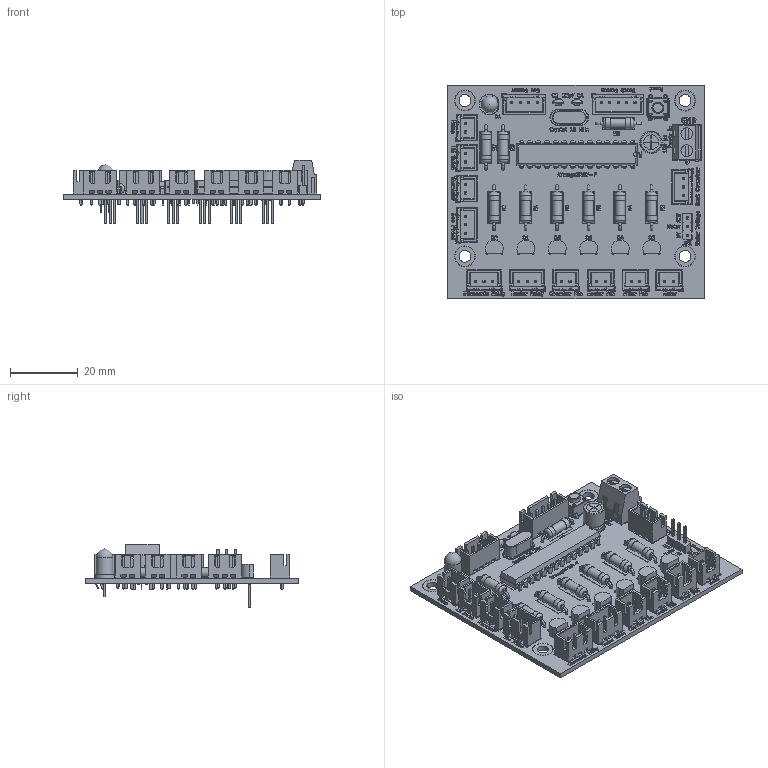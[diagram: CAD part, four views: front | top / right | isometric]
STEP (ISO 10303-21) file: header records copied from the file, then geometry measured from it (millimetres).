
FILE_DESCRIPTION(('KiCad electronic assembly'),'2;1');
FILE_NAME('pcb_opensmooth.step','2026-01-30T16:02:26',('Pcbnew'),( 'Kicad'),'Open CASCADE STEP processor 7.9','KiCad to STEP converter' ,'Unknown');
FILE_SCHEMA(('AUTOMOTIVE_DESIGN { 1 0 10303 214 1 1 1 1 }'));
Length unit declared in the file: millimetre
Products named in the file (18): pcb_opensmooth 1; JST_XH_B3B-XH-A_1x03_P2.50mm_Vertical; JST_XH_B2B-XH-A_1x02_P2.50mm_Vertical; 2n2222; JST_XH_B4B-XH-A_1x04_P2.50mm_Vertical; C_Disc_D3.0mm_W1.6mm_P2.50mm; Crystal_HC49-4H_Vertical; R_Axial_DIN0309_L9.0mm_D3.2mm_P12.70mm_Horizontal; DIP-28_W7.62mm; Tactal Switch -THru (6mmx 6mmx5mm)-Black; LED_D5.0mm; PinHeader_1x03_P2.54mm_Vertical; C_Radial_D6.3mm_H7.0mm_P2.50mm; JST_XH_B5B-XH-A_1x05_P2.50mm_Vertical; c-282836-2-j-3d; pcb_opensmooth_silkscreen; pcb_opensmooth_PCB
Assembly tree (40 placements, depth 2):
  pcb_opensmooth 1
    JST_XH_B3B-XH-A_1x03_P2.50mm_Vertical  x4
    JST_XH_B2B-XH-A_1x02_P2.50mm_Vertical  x7
    2n2222  x6
    JST_XH_B4B-XH-A_1x04_P2.50mm_Vertical
    C_Disc_D3.0mm_W1.6mm_P2.50mm  x2
    Crystal_HC49-4H_Vertical
    R_Axial_DIN0309_L9.0mm_D3.2mm_P12.70mm_Horizontal  x9
    DIP-28_W7.62mm
    Tactal Switch -THru (6mmx 6mmx5mm)-Black
    LED_D5.0mm
    PinHeader_1x03_P2.54mm_Vertical
    C_Radial_D6.3mm_H7.0mm_P2.50mm
    JST_XH_B5B-XH-A_1x05_P2.50mm_Vertical
    c-282836-2-j-3d
    pcb_opensmooth_silkscreen
    pcb_opensmooth_silkscreen
    pcb_opensmooth_PCB
Bounding box: 75.6 x 63.05 x 18.8 mm (x, y, z)
Volume: 12653 mm3; surface area: 21614.5 mm2
Topology: 38 solids, 403 shells, 3821 faces, 15519 edges, 12344 vertices
Faces by surface type: plane 2330, bspline 1108, cylinder 331, torus 41, revolution 6, sphere 5
Full cylindrical faces by diameter (mm): 0.5 x6, 0.55 x18, 0.6 x2, 0.7 x36, 0.8 x54, 0.9 x2, 0.95 x21, 1 x17, 1.2 x4, 1.27 x2, 2.88 x9, 3.2 x18, 3.5 x4, 4.41 x3, 4.9 x1, 6.3 x2
Entity records: 128489 total; most frequent: CARTESIAN_POINT 29403, ORIENTED_EDGE 15646, DIRECTION 15629, EDGE_CURVE 11033, VERTEX_POINT 9411, LINE 7869, VECTOR 7869, AXIS2_PLACEMENT_3D 3878
